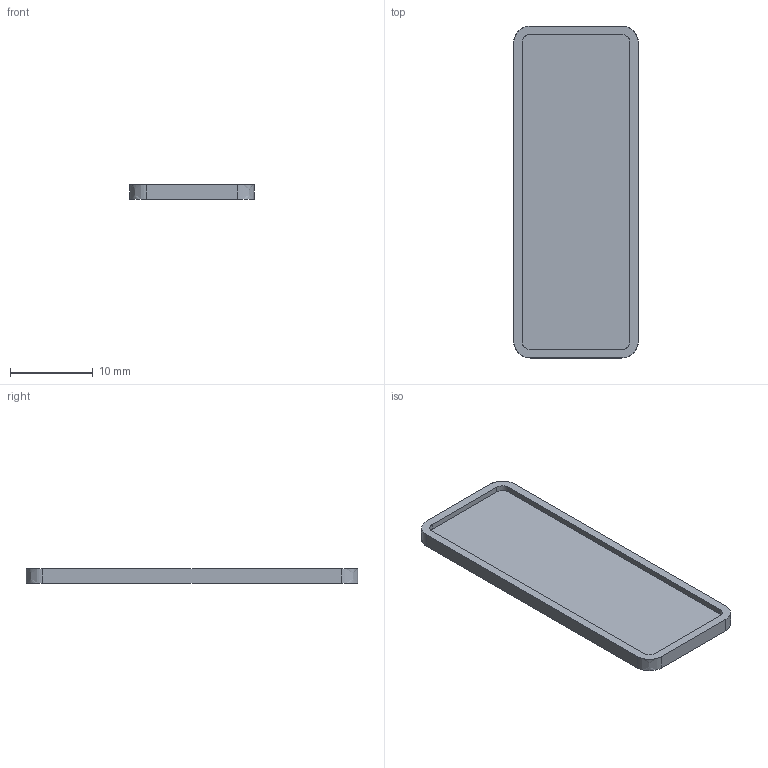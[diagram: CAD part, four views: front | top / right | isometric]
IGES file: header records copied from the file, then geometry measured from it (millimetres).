
Global section: file name: C:\Users\filip\Desktop\OpenOmega\export\omega_serial_plate.igs; native system: Rhinoceros ( Aug  5 2025 ); preprocessor: Trout Lake IGES 012 Aug  5 2025; date: 250925.064244; units: millimetre
Bounding box: 15 x 40 x 1.7 mm (x, y, z)
Surface area: 1444.5 mm2 (no closed solid volume)
Topology: 0 solids, 0 shells, 19 faces, 96 edges, 96 vertices
Faces by surface type: bspline 19
